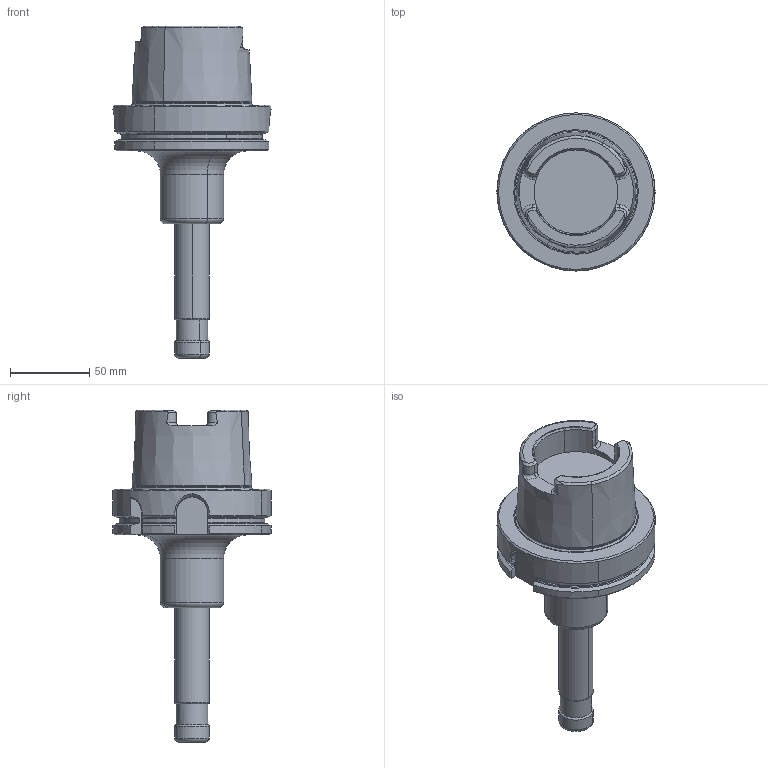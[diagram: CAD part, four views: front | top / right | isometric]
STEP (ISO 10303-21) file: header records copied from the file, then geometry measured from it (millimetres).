
FILE_DESCRIPTION(('CATIA V5 STEP','CAx-IF Rec.Pracs.--- Model Styling and Organization---1.2---2011-12-15'),'2;1');
FILE_NAME('\\nas01\drv1\utils\eitdev\rte\eit\transmagicconvert\db\out\4561014-I.stp','2014-03-11T06:26:17+00:00',('none'),('none'),'CATIA Version 5 Release 21 SP 5 (IN-10)','CATIA V5 STEP AP214','none');
FILE_SCHEMA(('AUTOMOTIVE_DESIGN { 1 0 10303 214 1 1 1 1 }'));
Length unit declared in the file: millimetre
Products named in the file (1): 60903235_0 Assembly  HSK A 100 ER16X160 M
Bounding box: 99.99 x 100 x 210 mm (x, y, z)
Volume: 478715.8 mm3; surface area: 49892.4 mm2
Topology: 1 solids, 1 shells, 162 faces, 418 edges, 262 vertices
Faces by surface type: plane 49, cylinder 40, torus 37, cone 32, bspline 2, extrusion 2
Entity records: 5135 total; most frequent: CARTESIAN_POINT 1643, ORIENTED_EDGE 836, DIRECTION 515, EDGE_CURVE 418, AXIS2_PLACEMENT_3D 278, VERTEX_POINT 262, CIRCLE 178, EDGE_LOOP 166
